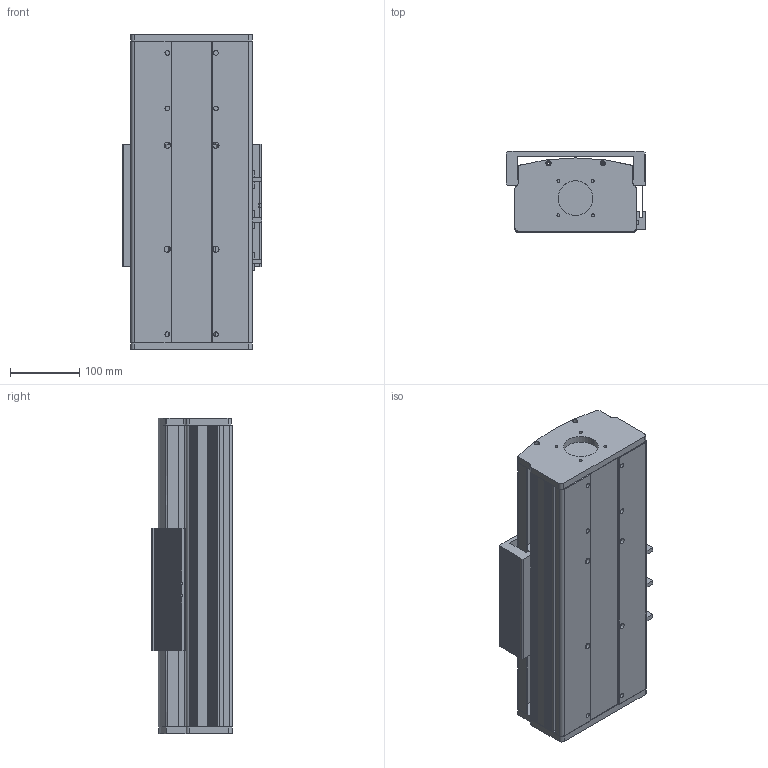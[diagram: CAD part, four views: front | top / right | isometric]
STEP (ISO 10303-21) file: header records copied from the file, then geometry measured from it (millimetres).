
FILE_DESCRIPTION (( 'STEP AP203' ), '1' );
FILE_NAME ('CF175B-C-100-FW.STEP', '2020-07-15T01:48:32', ( 'Micorosoft' ), ( 'Micorosoft' ), 'SwSTEP 2.0', 'SolidWorks 2016', '' );
FILE_SCHEMA (( 'CONFIG_CONTROL_DESIGN' ));
Length unit declared in the file: millimetre
Products named in the file (12): EGR20絳寢-100; CF175-2賑雄啣; 175-2耜啣; 75-86-95癹弇羲壽覜茼え; 175-2盓傅釱; CF-EGH20CA賑輸; CF175-2蹟譫釱; 175B珨极嘐隅釱; 175B裔啣-100; 嫖萇羲壽; CF175B-C-100-FW; 175B臏倰第-100
Assembly tree (17 placements, depth 2):
  CF175B-C-100-FW
    175-2耜啣
    175-2盓傅釱
    CF175-2蹟譫釱
    175B裔啣-100
    175B臏倰第-100
    EGR20絳寢-100  x2
    CF175-2賑雄啣
    75-86-95癹弇羲壽覜茼え
    CF-EGH20CA賑輸  x4
    175B珨极嘐隅釱
    嫖萇羲壽  x3
Bounding box: 201.1 x 116.8 x 455 mm (x, y, z)
Volume: 5254408.3 mm3; surface area: 1206389.2 mm2
Topology: 23 solids, 23 shells, 1215 faces, 3234 edges, 2148 vertices
Faces by surface type: plane 673, cylinder 536, cone 4, bspline 2
Entity records: 30054 total; most frequent: CARTESIAN_POINT 5101, DIRECTION 5089, ORIENTED_EDGE 4780, EDGE_CURVE 2390, AXIS2_PLACEMENT_3D 1816, VERTEX_POINT 1588, VECTOR 1457, LINE 1457
